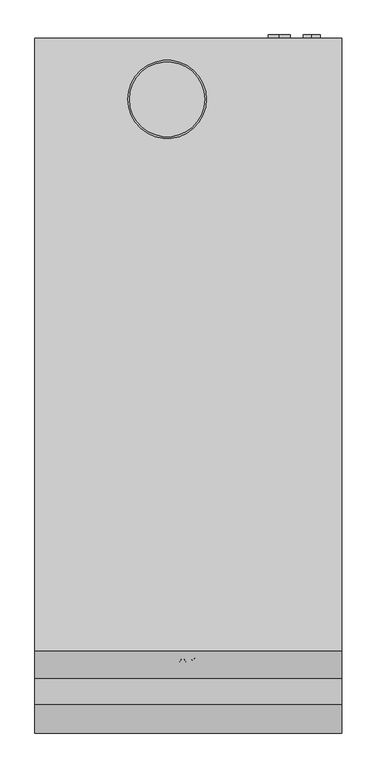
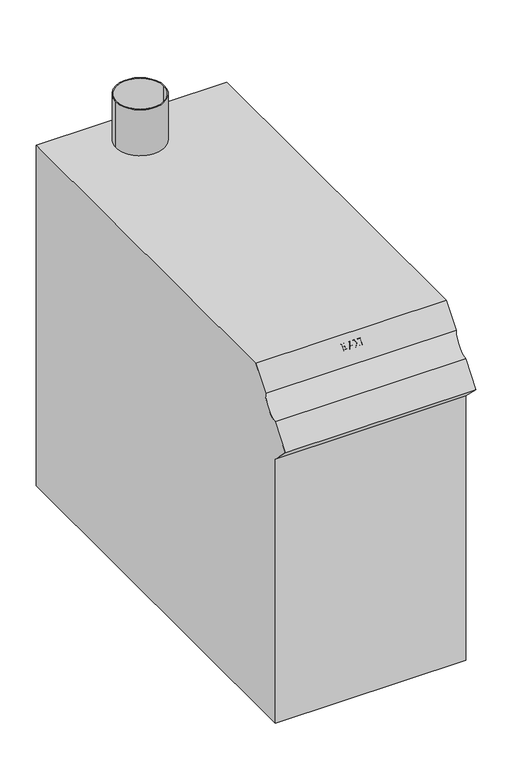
"""IFC4 building model written with IfcOpenShell, lengths in millimetres: proxy geometry, BAXI_ГазовыйКотел_Power_HT_45-150 : BAXI_Газовый котел_Power_HT_1.1200."""

from ifc_helpers import new_model, si_unit, point, frame, frame_2d, origin, place, context, project, spatial, polyline, circle_curve, trimmed, segment, composite_curve, outline, extrude, source, transform, mapped, element, save


def mechanical_equipment_66ac5500(model_context):
    return source(origin(), model_context, "Body", "SweptSolid", [
        extrude(outline(composite_curve([segment(polyline([(-5.0, 850.0), (-5.0, 0.0), (-984.0, 0.0), (-984.0, 660.0), (-1024.0, 700.0), (-982.2660851, 752.0109492)]), True, "CONTINUOUS"), segment(trimmed(circle_curve(frame_2d((-994.6738547, 801.4105648)), 50.9340237), [point((-982.2660851, 752.0109492))], [point((-943.7593668, 800.0))], True, "CARTESIAN"), True, "CONTINUOUS"), segment(polyline([(-943.7593668, 800.0), (-903.6390502, 850.0), (-5.0, 850.0)]), True, "CONTINUOUS")], self_intersect=False)), frame((-225.0, 0.0, 0.0), z_axis=(1.0, 0.0, 0.0), x_axis=(0.0, 1.0, 0.0)), (0.0, 0.0, 1.0), 450.0),
        extrude(outline(composite_curve([segment(trimmed(circle_curve(frame_2d((346.0, 133.5)), 16.0), [point((330.0, 133.5))], [point((362.0, 133.5))], False, "CARTESIAN"), True, "CONTINUOUS"), segment(trimmed(circle_curve(frame_2d((346.0, 133.5)), 16.0), [point((362.0, 133.5))], [point((330.0, 133.5))], False, "CARTESIAN"), True, "CONTINUOUS")], self_intersect=False)), frame((0.0, -94.5, 0.0), z_axis=(0.0, 1.0, 0.0), x_axis=(0.0, 0.0, 1.0)), (0.0, 0.0, 1.0), 94.5),
        extrude(outline(composite_curve([segment(trimmed(circle_curve(frame_2d((186.0, 133.5)), 16.0), [point((170.0, 133.5))], [point((202.0, 133.5))], False, "CARTESIAN"), True, "CONTINUOUS"), segment(trimmed(circle_curve(frame_2d((186.0, 133.5)), 16.0), [point((202.0, 133.5))], [point((170.0, 133.5))], False, "CARTESIAN"), True, "CONTINUOUS")], self_intersect=False)), frame((0.0, -94.5, 0.0), z_axis=(0.0, 1.0, 0.0), x_axis=(0.0, 0.0, 1.0)), (0.0, 0.0, 1.0), 94.5),
        extrude(outline(composite_curve([segment(trimmed(circle_curve(frame_2d((476.0, 181.0)), 12.5), [point((463.5, 181.0))], [point((488.5, 181.0))], False, "CARTESIAN"), True, "CONTINUOUS"), segment(trimmed(circle_curve(frame_2d((476.0, 181.0)), 12.5), [point((488.5, 181.0))], [point((463.5, 181.0))], False, "CARTESIAN"), True, "CONTINUOUS")], self_intersect=False)), frame((0.0, -94.5, 0.0), z_axis=(0.0, 1.0, 0.0), x_axis=(0.0, 0.0, 1.0)), (0.0, 0.0, 1.0), 94.5),
        extrude(outline(composite_curve([segment(trimmed(circle_curve(frame_2d((65.3668634, 133.5)), 10.0), [point((55.3668634, 133.5))], [point((75.3668634, 133.5))], False, "CARTESIAN"), True, "CONTINUOUS"), segment(trimmed(circle_curve(frame_2d((65.3668634, 133.5)), 10.0), [point((75.3668634, 133.5))], [point((55.3668634, 133.5))], False, "CARTESIAN"), True, "CONTINUOUS")], self_intersect=False)), frame((0.0, -94.5, 0.0), z_axis=(0.0, 1.0, 0.0), x_axis=(0.0, 0.0, 1.0)), (0.0, 0.0, 1.0), 94.5),
        extrude(outline(composite_curve([segment(trimmed(circle_curve(frame_2d((-31.0, -94.5)), 57.5), [point((-88.5, -94.5))], [point((26.5, -94.5))], False, "CARTESIAN"), True, "CONTINUOUS"), segment(trimmed(circle_curve(frame_2d((-31.0, -94.5)), 57.5), [point((26.5, -94.5))], [point((-88.5, -94.5))], False, "CARTESIAN"), True, "CONTINUOUS")], self_intersect=False), holes=[composite_curve([segment(trimmed(circle_curve(frame_2d((-31.0, -94.5)), 55.0), [point((-86.0, -94.5))], [point((24.0, -94.5))], True, "CARTESIAN"), True, "CONTINUOUS"), segment(trimmed(circle_curve(frame_2d((-31.0, -94.5)), 55.0), [point((24.0, -94.5))], [point((-86.0, -94.5))], True, "CARTESIAN"), True, "CONTINUOUS")], self_intersect=False)]), frame((0.0, 0.0, 850.0), z_axis=(0.0, 0.0, 1.0), x_axis=(1.0, 0.0, 0.0)), (0.0, 0.0, 1.0), 115.0),
        extrude(outline(polyline([(0.0, 0.0), (6.281731, 0.0), (9.0620138, -0.1518243), (10.7017164, -0.7875886), (11.9068219, -2.0742997), (12.3888641, -3.8753157), (11.8138295, -5.856623), (10.2519369, -7.211655), (12.1952881, -8.5932563), (12.8747019, -10.889599), (12.3869663, -12.9107602), (11.054708, -14.4783463), (8.972817, -15.2014096), (5.2303477, -15.303891), (0.0, -15.303891), (0.0, 0.0)]), holes=[polyline([(2.9150268, -2.6721079), (2.9150268, -6.0729726), (5.1392531, -6.0729726), (7.6063982, -6.0236297), (4.8659693, -2.6721079), (2.9150268, -2.6721079)]), polyline([(2.9150268, -8.7450806), (2.9150268, -12.631783), (5.9970604, -12.631783), (8.2820164, -12.5406884), (5.6061128, -8.7450806), (2.9150268, -8.7450806)])]), frame((-29.1315163, -910.4782546, 833.487354), z_axis=(0.0, -0.7799524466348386, 0.6258387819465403), x_axis=(1.0, 0.0, 0.0)), (0.0, 0.0, 1.0), 5.0),
        extrude(outline(polyline([(0.0, 0.0), (3.0630555, 0.0), (4.2624676, -3.4008647), (10.0431784, -3.4008647), (11.2274081, 0.0), (14.3322153, 0.0), (8.7450805, -15.303891), (5.6402733, -15.303891), (0.0, 0.0)]), holes=[polyline([(5.1961872, -6.0729726), (7.1661077, -11.6601074), (9.1094589, -6.0729726), (5.1961872, -6.0729726)])]), frame((-0.9529234, -920.0560231, 821.5510468), z_axis=(0.0, -0.7799524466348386, 0.6258387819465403), x_axis=(-1.0, 0.0, 0.0)), (0.0, 0.0, 1.0), 5.0),
        extrude(outline(polyline([(0.0, 0.0), (9.5718736, 0.0), (13.0938513, 7.9370131), (14.9522751, 5.079771), (12.6996984, 0.0014133), (18.2552198, 0.0016435), (20.1136436, -2.8555986), (11.4302974, -2.8572421), (7.549588, -11.6071484), (5.6911642, -8.7499063), (8.3056546, -2.8565859), (1.8584238, -2.8572421), (0.0, 0.0)])), frame((-0.8314639, -920.0560231, 821.5510468), z_axis=(0.0, -0.7799524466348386, 0.6258387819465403), x_axis=(0.5452392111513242, 0.5246284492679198, 0.6538189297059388)), (0.0, 0.0, 1.0), 5.0),
        extrude(outline(polyline([(0.0, -2.9150269), (0.0, 0.0), (5.0, 0.0), (5.0, -2.9150269), (0.0, -2.9150269)])), frame((17.5089134, -920.0560231, 821.5510468), z_axis=(0.0, 0.6258387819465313, 0.7799524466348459), x_axis=(0.0, -0.7799524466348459, 0.6258387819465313)), (0.0, 0.0, 1.0), 15.303891),
    ])


if __name__ == "__main__":
    model = new_model("IFC4")
    model_context = context("Model", 3, world=origin())
    ifc_project = project(units=[si_unit("LENGTHUNIT", "METRE", prefix="MILLI")], contexts=[model_context])
    site = spatial("IfcSite", under=ifc_project)
    building = spatial("IfcBuilding", under=site)
    placement = place(None, origin())
    mechanical_equipment_shape = mechanical_equipment_66ac5500(model_context)
    element("IfcBuildingElementProxy", 1, Name="BAXI_ГазовыйКотел_Power_HT_45-150 : BAXI_Газовый котел_Power_HT_1.1200", ObjectType="BAXI_ГазовыйКотел_Power_HT_45-150 : BAXI_Газовый котел_Power_HT_1.1200", at=placement, inside=building, context=model_context, shape_type="MappedRepresentation", body=[
        mapped(mechanical_equipment_shape, transform((0.0, 0.0, 0.0), x_axis=(1.0, 0.0, 0.0), y_axis=(0.0, 1.0, 0.0), z_axis=(0.0, 0.0, 1.0))),
    ])
    save(model, "model.ifc")
